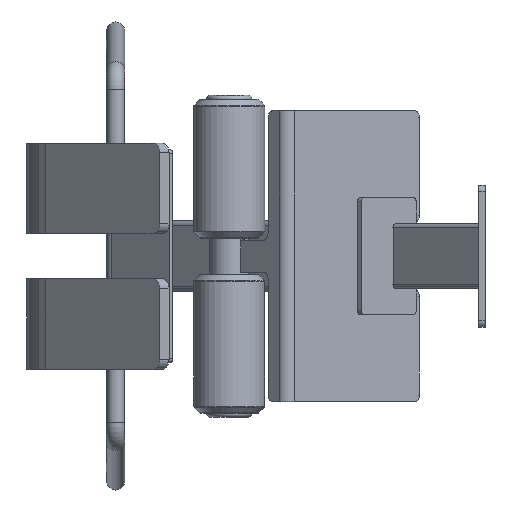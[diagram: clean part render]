
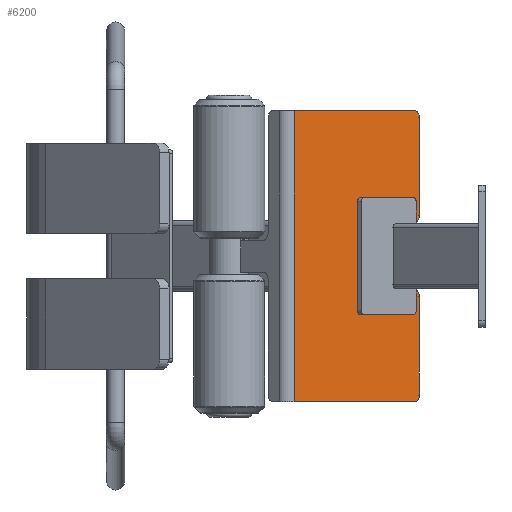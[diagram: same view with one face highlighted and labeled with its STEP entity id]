
A CAD part, left-side view. The second image highlights one B-rep face of the part: STEP entity #6200.
In plain terms, the highlighted planar face has unit normal (-0.707, -0.707, 0).
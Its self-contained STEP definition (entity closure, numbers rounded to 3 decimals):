
#560=FACE_OUTER_BOUND('',#978,.T.);
#978=EDGE_LOOP('',(#4788,#4789,#4790,#4791,#4792,#4793,#4794,#4795,#4796,
#4797,#4798,#4799,#4800,#4801));
#1495=LINE('',#9951,#2002);
#1498=LINE('',#9957,#2005);
#1499=LINE('',#9960,#2006);
#1500=LINE('',#9962,#2007);
#1501=LINE('',#9966,#2008);
#1502=LINE('',#9970,#2009);
#1503=LINE('',#9974,#2010);
#1504=LINE('',#9978,#2011);
#2002=VECTOR('',#8043,1000.);
#2005=VECTOR('',#8048,1000.);
#2006=VECTOR('',#8051,1000.);
#2007=VECTOR('',#8052,1000.);
#2008=VECTOR('',#8055,1000.);
#2009=VECTOR('',#8058,1000.);
#2010=VECTOR('',#8061,1000.);
#2011=VECTOR('',#8064,1000.);
#2357=CIRCLE('',#6776,10.);
#2358=CIRCLE('',#6777,10.);
#2359=CIRCLE('',#6778,10.);
#2360=CIRCLE('',#6779,10.);
#2361=CIRCLE('',#6780,10.);
#2362=CIRCLE('',#6781,10.);
#2807=VERTEX_POINT('',#9949);
#2808=VERTEX_POINT('',#9950);
#2809=VERTEX_POINT('',#9955);
#2810=VERTEX_POINT('',#9956);
#2811=VERTEX_POINT('',#9959);
#2812=VERTEX_POINT('',#9961);
#2813=VERTEX_POINT('',#9963);
#2814=VERTEX_POINT('',#9965);
#2815=VERTEX_POINT('',#9967);
#2816=VERTEX_POINT('',#9969);
#2817=VERTEX_POINT('',#9971);
#2818=VERTEX_POINT('',#9973);
#2819=VERTEX_POINT('',#9975);
#2820=VERTEX_POINT('',#9977);
#3511=EDGE_CURVE('',#2807,#2808,#1495,.T.);
#3514=EDGE_CURVE('',#2809,#2810,#1498,.T.);
#3515=EDGE_CURVE('',#2809,#2808,#2357,.T.);
#3516=EDGE_CURVE('',#2807,#2811,#1499,.T.);
#3517=EDGE_CURVE('',#2812,#2811,#1500,.T.);
#3518=EDGE_CURVE('',#2812,#2813,#2358,.T.);
#3519=EDGE_CURVE('',#2814,#2813,#1501,.T.);
#3520=EDGE_CURVE('',#2814,#2815,#2359,.T.);
#3521=EDGE_CURVE('',#2816,#2815,#1502,.T.);
#3522=EDGE_CURVE('',#2816,#2817,#2360,.T.);
#3523=EDGE_CURVE('',#2818,#2817,#1503,.T.);
#3524=EDGE_CURVE('',#2818,#2819,#2361,.T.);
#3525=EDGE_CURVE('',#2820,#2819,#1504,.T.);
#3526=EDGE_CURVE('',#2820,#2810,#2362,.T.);
#4788=ORIENTED_EDGE('',*,*,#3514,.F.);
#4789=ORIENTED_EDGE('',*,*,#3515,.T.);
#4790=ORIENTED_EDGE('',*,*,#3511,.F.);
#4791=ORIENTED_EDGE('',*,*,#3516,.T.);
#4792=ORIENTED_EDGE('',*,*,#3517,.F.);
#4793=ORIENTED_EDGE('',*,*,#3518,.T.);
#4794=ORIENTED_EDGE('',*,*,#3519,.F.);
#4795=ORIENTED_EDGE('',*,*,#3520,.T.);
#4796=ORIENTED_EDGE('',*,*,#3521,.F.);
#4797=ORIENTED_EDGE('',*,*,#3522,.T.);
#4798=ORIENTED_EDGE('',*,*,#3523,.F.);
#4799=ORIENTED_EDGE('',*,*,#3524,.T.);
#4800=ORIENTED_EDGE('',*,*,#3525,.F.);
#4801=ORIENTED_EDGE('',*,*,#3526,.T.);
#5920=PLANE('',#6775);
#6200=ADVANCED_FACE('',(#560),#5920,.F.);
#6775=AXIS2_PLACEMENT_3D('',#9954,#8046,#8047);
#6776=AXIS2_PLACEMENT_3D('',#9958,#8049,#8050);
#6777=AXIS2_PLACEMENT_3D('',#9964,#8053,#8054);
#6778=AXIS2_PLACEMENT_3D('',#9968,#8056,#8057);
#6779=AXIS2_PLACEMENT_3D('',#9972,#8059,#8060);
#6780=AXIS2_PLACEMENT_3D('',#9976,#8062,#8063);
#6781=AXIS2_PLACEMENT_3D('',#9979,#8065,#8066);
#8043=DIRECTION('',(0.707,-0.707,0.));
#8046=DIRECTION('center_axis',(0.707,0.707,0.));
#8047=DIRECTION('ref_axis',(0.707,-0.707,0.));
#8048=DIRECTION('',(0.,0.,-1.));
#8049=DIRECTION('center_axis',(-0.707,-0.707,0.));
#8050=DIRECTION('ref_axis',(0.707,-0.707,0.));
#8051=DIRECTION('',(0.,0.,-1.));
#8052=DIRECTION('',(-0.707,0.707,0.));
#8053=DIRECTION('center_axis',(-0.707,-0.707,0.));
#8054=DIRECTION('ref_axis',(0.707,-0.707,0.));
#8055=DIRECTION('',(0.,0.,-1.));
#8056=DIRECTION('center_axis',(-0.707,-0.707,0.));
#8057=DIRECTION('ref_axis',(0.707,-0.707,0.));
#8058=DIRECTION('',(0.707,-0.707,0.));
#8059=DIRECTION('center_axis',(0.707,0.707,0.));
#8060=DIRECTION('ref_axis',(0.707,-0.707,0.));
#8061=DIRECTION('',(0.,0.,-1.));
#8062=DIRECTION('center_axis',(0.707,0.707,0.));
#8063=DIRECTION('ref_axis',(0.707,-0.707,0.));
#8064=DIRECTION('',(-0.707,0.707,0.));
#8065=DIRECTION('center_axis',(-0.707,-0.707,0.));
#8066=DIRECTION('ref_axis',(0.707,-0.707,0.));
#9949=CARTESIAN_POINT('',(-288.631,376.801,969.342));
#9950=CARTESIAN_POINT('',(-101.955,190.124,969.342));
#9951=CARTESIAN_POINT('',(-299.945,388.114,969.342));
#9954=CARTESIAN_POINT('Origin',(-197.415,285.584,744.342));
#9955=CARTESIAN_POINT('',(-94.884,183.053,959.342));
#9956=CARTESIAN_POINT('',(-94.884,183.053,806.842));
#9957=CARTESIAN_POINT('',(-94.884,183.053,796.842));
#9958=CARTESIAN_POINT('Origin',(-101.955,190.124,959.342));
#9959=CARTESIAN_POINT('',(-288.631,376.801,519.342));
#9960=CARTESIAN_POINT('',(-288.631,376.801,969.342));
#9961=CARTESIAN_POINT('',(-101.955,190.124,519.342));
#9962=CARTESIAN_POINT('',(-299.945,388.114,519.342));
#9963=CARTESIAN_POINT('',(-94.884,183.053,529.342));
#9964=CARTESIAN_POINT('Origin',(-101.955,190.124,529.342));
#9965=CARTESIAN_POINT('',(-94.884,183.053,681.842));
#9966=CARTESIAN_POINT('',(-94.884,183.053,519.342));
#9967=CARTESIAN_POINT('',(-101.955,190.124,691.842));
#9968=CARTESIAN_POINT('Origin',(-101.955,190.124,681.842));
#9969=CARTESIAN_POINT('',(-136.25,224.419,691.842));
#9970=CARTESIAN_POINT('',(-143.321,231.49,691.842));
#9971=CARTESIAN_POINT('',(-143.321,231.49,701.842));
#9972=CARTESIAN_POINT('Origin',(-136.25,224.419,701.842));
#9973=CARTESIAN_POINT('',(-143.321,231.49,786.842));
#9974=CARTESIAN_POINT('',(-143.321,231.49,796.842));
#9975=CARTESIAN_POINT('',(-136.25,224.419,796.842));
#9976=CARTESIAN_POINT('Origin',(-136.25,224.419,786.842));
#9977=CARTESIAN_POINT('',(-101.955,190.124,796.842));
#9978=CARTESIAN_POINT('',(-94.884,183.053,796.842));
#9979=CARTESIAN_POINT('Origin',(-101.955,190.124,806.842));
